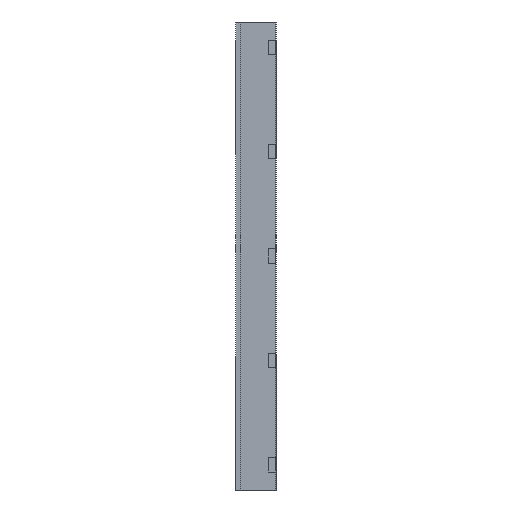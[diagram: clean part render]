
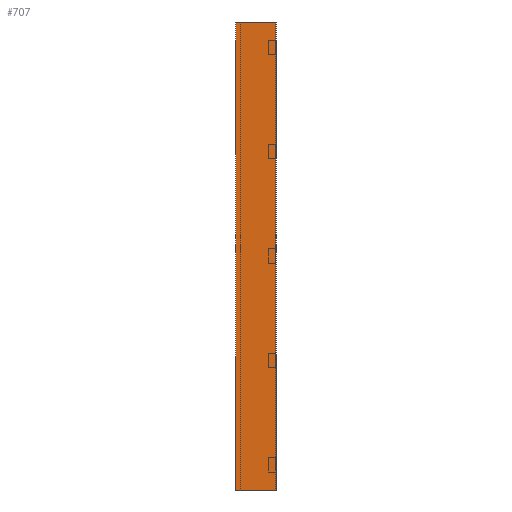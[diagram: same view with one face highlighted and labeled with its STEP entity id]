
A CAD part, left-side view. The second image highlights one B-rep face of the part: STEP entity #707.
In plain terms, the highlighted planar face has unit normal (-1, 0, 0).
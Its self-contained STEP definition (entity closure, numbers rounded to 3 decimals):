
#6 = LINE ( 'NONE', #1556, #573 ) ;
#20 = EDGE_CURVE ( 'NONE', #899, #784, #6, .T. ) ;
#70 = VECTOR ( 'NONE', #307, 1000. ) ;
#76 = CARTESIAN_POINT ( 'NONE',  ( 0., 0., 0. ) ) ;
#188 = CARTESIAN_POINT ( 'NONE',  ( 0., 0., -1300. ) ) ;
#307 = DIRECTION ( 'NONE',  ( 0., 0., 1. ) ) ;
#341 = ORIENTED_EDGE ( 'NONE', *, *, #1016, .F. ) ;
#509 = VERTEX_POINT ( 'NONE', #1195 ) ;
#537 = ORIENTED_EDGE ( 'NONE', *, *, #690, .F. ) ;
#573 = VECTOR ( 'NONE', #1566, 1000. ) ;
#612 = DIRECTION ( 'NONE',  ( 0., -1., 0. ) ) ;
#631 = VECTOR ( 'NONE', #612, 1000. ) ;
#690 = EDGE_CURVE ( 'NONE', #1165, #784, #886, .T. ) ;
#707 = ADVANCED_FACE ( 'NONE', ( #1398 ), #860, .T. ) ;
#784 = VERTEX_POINT ( 'NONE', #790 ) ;
#790 = CARTESIAN_POINT ( 'NONE',  ( 0., 0., 0. ) ) ;
#800 = ORIENTED_EDGE ( 'NONE', *, *, #1459, .T. ) ;
#860 = PLANE ( 'NONE',  #1065 ) ;
#886 = LINE ( 'NONE', #76, #631 ) ;
#899 = VERTEX_POINT ( 'NONE', #1436 ) ;
#971 = EDGE_LOOP ( 'NONE', ( #537, #341, #800, #1561 ) ) ;
#988 = DIRECTION ( 'NONE',  ( 0., -1., 0. ) ) ;
#1016 = EDGE_CURVE ( 'NONE', #509, #1165, #1468, .T. ) ;
#1065 = AXIS2_PLACEMENT_3D ( 'NONE', #1246, #1129, #1646 ) ;
#1129 = DIRECTION ( 'NONE',  ( -1., 0., 0. ) ) ;
#1165 = VERTEX_POINT ( 'NONE', #1622 ) ;
#1195 = CARTESIAN_POINT ( 'NONE',  ( 0., 112.5, -1300. ) ) ;
#1246 = CARTESIAN_POINT ( 'NONE',  ( 0., 0., -1300. ) ) ;
#1384 = VECTOR ( 'NONE', #988, 1000. ) ;
#1398 = FACE_OUTER_BOUND ( 'NONE', #971, .T. ) ;
#1436 = CARTESIAN_POINT ( 'NONE',  ( 0., 0., -1300. ) ) ;
#1459 = EDGE_CURVE ( 'NONE', #509, #899, #1602, .T. ) ;
#1468 = LINE ( 'NONE', #1607, #70 ) ;
#1556 = CARTESIAN_POINT ( 'NONE',  ( 0., 0., -1300. ) ) ;
#1561 = ORIENTED_EDGE ( 'NONE', *, *, #20, .T. ) ;
#1566 = DIRECTION ( 'NONE',  ( 0., 0., 1. ) ) ;
#1602 = LINE ( 'NONE', #188, #1384 ) ;
#1607 = CARTESIAN_POINT ( 'NONE',  ( 0., 112.5, -1300. ) ) ;
#1622 = CARTESIAN_POINT ( 'NONE',  ( 0., 112.5, 0. ) ) ;
#1646 = DIRECTION ( 'NONE',  ( 0., 0., 1. ) ) ;
